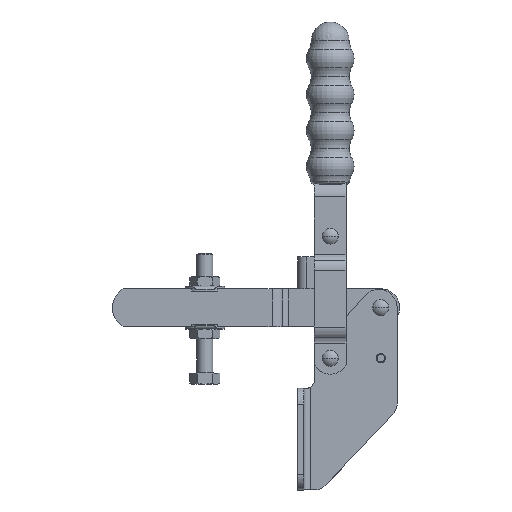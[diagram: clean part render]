
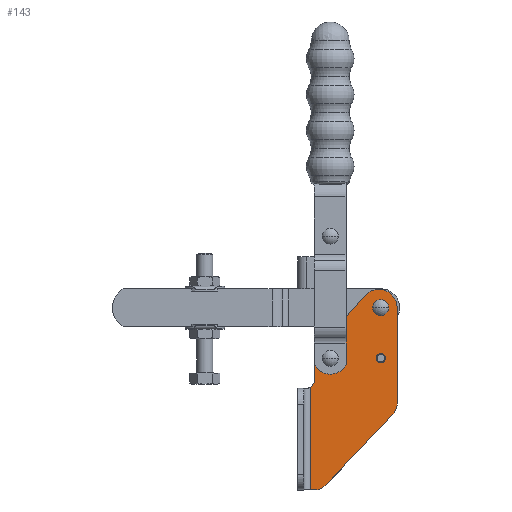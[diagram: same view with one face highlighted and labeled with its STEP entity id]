
A CAD part, top view. The second image highlights one B-rep face of the part: STEP entity #143.
In plain terms, the highlighted planar face has unit normal (0, 0, 1).
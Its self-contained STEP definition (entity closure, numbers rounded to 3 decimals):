
#143=ADVANCED_FACE('',(#506,#507,#508,#509),#510,.T.);
#506=FACE_BOUND('',#1237,.T.);
#507=FACE_BOUND('',#1238,.T.);
#508=FACE_OUTER_BOUND('',#1239,.T.);
#509=FACE_BOUND('',#1240,.T.);
#510=PLANE('',#1241);
#1237=EDGE_LOOP('',(#2091,#2092));
#1238=EDGE_LOOP('',(#2093,#2094));
#1239=EDGE_LOOP('',(#2095,#2096,#2097,#2098,#2099,#2100,#2101,#2102,#2103,#2104,#2105));
#1240=EDGE_LOOP('',(#2106,#2107));
#1241=AXIS2_PLACEMENT_3D('',#2108,#2109,#2110);
#2091=ORIENTED_EDGE('',*,*,#4688,.T.);
#2092=ORIENTED_EDGE('',*,*,#4698,.T.);
#2093=ORIENTED_EDGE('',*,*,#4680,.T.);
#2094=ORIENTED_EDGE('',*,*,#4702,.T.);
#2095=ORIENTED_EDGE('',*,*,#4715,.F.);
#2096=ORIENTED_EDGE('',*,*,#4716,.T.);
#2097=ORIENTED_EDGE('',*,*,#4717,.T.);
#2098=ORIENTED_EDGE('',*,*,#4718,.F.);
#2099=ORIENTED_EDGE('',*,*,#4719,.F.);
#2100=ORIENTED_EDGE('',*,*,#4720,.F.);
#2101=ORIENTED_EDGE('',*,*,#4721,.F.);
#2102=ORIENTED_EDGE('',*,*,#4722,.F.);
#2103=ORIENTED_EDGE('',*,*,#4723,.F.);
#2104=ORIENTED_EDGE('',*,*,#4724,.F.);
#2105=ORIENTED_EDGE('',*,*,#4725,.F.);
#2106=ORIENTED_EDGE('',*,*,#4640,.F.);
#2107=ORIENTED_EDGE('',*,*,#4726,.F.);
#2108=CARTESIAN_POINT('',(28.2,100.69,6.4));
#2109=DIRECTION('',(0.0,0.,1.0));
#2110=DIRECTION('',(-1.0,0.0,0.0));
#4640=EDGE_CURVE('',#5496,#5492,#5498,.T.);
#4680=EDGE_CURVE('',#5578,#5575,#5579,.T.);
#4688=EDGE_CURVE('',#5594,#5591,#5595,.T.);
#4698=EDGE_CURVE('',#5591,#5594,#5610,.T.);
#4702=EDGE_CURVE('',#5575,#5578,#5614,.T.);
#4715=EDGE_CURVE('',#5627,#5628,#5629,.T.);
#4716=EDGE_CURVE('',#5627,#5630,#5631,.T.);
#4717=EDGE_CURVE('',#5630,#5632,#5633,.T.);
#4718=EDGE_CURVE('',#5634,#5632,#5635,.T.);
#4719=EDGE_CURVE('',#5636,#5634,#5637,.T.);
#4720=EDGE_CURVE('',#5638,#5636,#5639,.T.);
#4721=EDGE_CURVE('',#5640,#5638,#5641,.T.);
#4722=EDGE_CURVE('',#5642,#5640,#5643,.T.);
#4723=EDGE_CURVE('',#5644,#5642,#5645,.T.);
#4724=EDGE_CURVE('',#5646,#5644,#5647,.T.);
#4725=EDGE_CURVE('',#5628,#5646,#5648,.T.);
#4726=EDGE_CURVE('',#5492,#5496,#5649,.T.);
#5492=VERTEX_POINT('',#6898);
#5496=VERTEX_POINT('',#6903);
#5498=CIRCLE('',#6906,2.0);
#5575=VERTEX_POINT('',#6999);
#5578=VERTEX_POINT('',#7003);
#5579=CIRCLE('',#7004,2.0);
#5591=VERTEX_POINT('',#7019);
#5594=VERTEX_POINT('',#7023);
#5595=CIRCLE('',#7024,2.35);
#5610=CIRCLE('',#7042,2.35);
#5614=CIRCLE('',#7046,2.0);
#5627=VERTEX_POINT('',#7059);
#5628=VERTEX_POINT('',#7060);
#5629=CIRCLE('',#7061,4.0);
#5630=VERTEX_POINT('',#7062);
#5631=LINE('',#7063,#7064);
#5632=VERTEX_POINT('',#7065);
#5633=LINE('',#7066,#7067);
#5634=VERTEX_POINT('',#7068);
#5635=CIRCLE('',#7069,7.9);
#5636=VERTEX_POINT('',#7070);
#5637=LINE('',#7071,#7072);
#5638=VERTEX_POINT('',#7073);
#5639=CIRCLE('',#7074,7.9);
#5640=VERTEX_POINT('',#7075);
#5641=LINE('',#7076,#7077);
#5642=VERTEX_POINT('',#7078);
#5643=CIRCLE('',#7079,9.19);
#5644=VERTEX_POINT('',#7080);
#5645=LINE('',#7081,#7082);
#5646=VERTEX_POINT('',#7083);
#5647=CIRCLE('',#7084,7.94);
#5648=LINE('',#7085,#7086);
#5649=CIRCLE('',#7087,2.0);
#6898=CARTESIAN_POINT('',(16.41,68.1,6.4));
#6903=CARTESIAN_POINT('',(16.41,64.1,6.4));
#6906=AXIS2_PLACEMENT_3D('',#9764,#9765,#9766);
#6999=CARTESIAN_POINT('',(43.81,91.5,6.4));
#7003=CARTESIAN_POINT('',(39.81,91.5,6.4));
#7004=AXIS2_PLACEMENT_3D('',#9850,#9851,#9852);
#7019=CARTESIAN_POINT('',(44.16,66.1,6.4));
#7023=CARTESIAN_POINT('',(39.46,66.1,6.4));
#7024=AXIS2_PLACEMENT_3D('',#9866,#9867,#9868);
#7042=AXIS2_PLACEMENT_3D('',#9890,#9891,#9892);
#7046=AXIS2_PLACEMENT_3D('',#9902,#9903,#9904);
#7059=CARTESIAN_POINT('',(6.4,51.497,6.4));
#7060=CARTESIAN_POINT('',(8.47,55.0,6.4));
#7061=AXIS2_PLACEMENT_3D('',#9941,#9942,#9943);
#7062=CARTESIAN_POINT('',(6.4,0.0,6.4));
#7063=CARTESIAN_POINT('',(6.4,100.69,6.4));
#7064=VECTOR('',#9944,1.0);
#7065=CARTESIAN_POINT('',(8.504,0.0,6.4));
#7066=CARTESIAN_POINT('',(50.0,0.0,6.4));
#7067=VECTOR('',#9945,1.0);
#7068=CARTESIAN_POINT('',(14.227,2.454,6.4));
#7069=AXIS2_PLACEMENT_3D('',#9946,#9947,#9948);
#7070=CARTESIAN_POINT('',(47.823,37.754,6.4));
#7071=CARTESIAN_POINT('',(50.475,40.541,6.4));
#7072=VECTOR('',#9949,1.0);
#7073=CARTESIAN_POINT('',(50.0,43.2,6.4));
#7074=AXIS2_PLACEMENT_3D('',#9950,#9951,#9952);
#7075=CARTESIAN_POINT('',(50.0,91.5,6.4));
#7076=CARTESIAN_POINT('',(50.0,100.69,6.4));
#7077=VECTOR('',#9953,1.0);
#7078=CARTESIAN_POINT('',(33.96,97.627,6.4));
#7079=AXIS2_PLACEMENT_3D('',#9954,#9955,#9956);
#7080=CARTESIAN_POINT('',(10.492,71.394,6.4));
#7081=CARTESIAN_POINT('',(27.574,90.489,6.4));
#7082=VECTOR('',#9957,1.0);
#7083=CARTESIAN_POINT('',(8.47,66.1,6.4));
#7084=AXIS2_PLACEMENT_3D('',#9958,#9959,#9960);
#7085=CARTESIAN_POINT('',(8.47,80.62,6.4));
#7086=VECTOR('',#9961,1.0);
#7087=AXIS2_PLACEMENT_3D('',#9962,#9963,#9964);
#9764=CARTESIAN_POINT('',(16.41,66.1,6.4));
#9765=DIRECTION('',(0.0,0.,1.0));
#9766=DIRECTION('',(0.0,1.0,0.));
#9850=CARTESIAN_POINT('',(41.81,91.5,6.4));
#9851=DIRECTION('',(0.0,0.,-1.0));
#9852=DIRECTION('',(1.0,0.0,0.0));
#9866=CARTESIAN_POINT('',(41.81,66.1,6.4));
#9867=DIRECTION('',(0.0,0.,-1.0));
#9868=DIRECTION('',(1.0,0.0,0.0));
#9890=CARTESIAN_POINT('',(41.81,66.1,6.4));
#9891=DIRECTION('',(0.0,0.,-1.0));
#9892=DIRECTION('',(1.0,0.0,0.0));
#9902=CARTESIAN_POINT('',(41.81,91.5,6.4));
#9903=DIRECTION('',(0.0,0.,-1.0));
#9904=DIRECTION('',(1.0,0.0,0.0));
#9941=CARTESIAN_POINT('',(4.47,55.0,6.4));
#9942=DIRECTION('',(-0.0,0.,1.0));
#9943=DIRECTION('',(1.0,0.0,0.0));
#9944=DIRECTION('',(0.0,-1.0,0.));
#9945=DIRECTION('',(1.0,0.0,0.0));
#9946=CARTESIAN_POINT('',(8.504,7.9,6.4));
#9947=DIRECTION('',(0.0,0.,-1.0));
#9948=DIRECTION('',(1.0,0.0,0.0));
#9949=DIRECTION('',(-0.689,-0.724,0.));
#9950=CARTESIAN_POINT('',(42.1,43.2,6.4));
#9951=DIRECTION('',(0.0,0.,-1.0));
#9952=DIRECTION('',(1.0,0.0,0.0));
#9953=DIRECTION('',(0.0,-1.0,0.));
#9954=CARTESIAN_POINT('',(40.81,91.5,6.4));
#9955=DIRECTION('',(0.0,0.,-1.0));
#9956=DIRECTION('',(1.0,0.0,0.0));
#9957=DIRECTION('',(0.667,0.745,0.));
#9958=CARTESIAN_POINT('',(16.41,66.1,6.4));
#9959=DIRECTION('',(0.0,0.,-1.0));
#9960=DIRECTION('',(1.0,0.0,0.0));
#9961=DIRECTION('',(0.,1.0,0.));
#9962=CARTESIAN_POINT('',(16.41,66.1,6.4));
#9963=DIRECTION('',(0.0,0.,1.0));
#9964=DIRECTION('',(0.0,1.0,0.));
